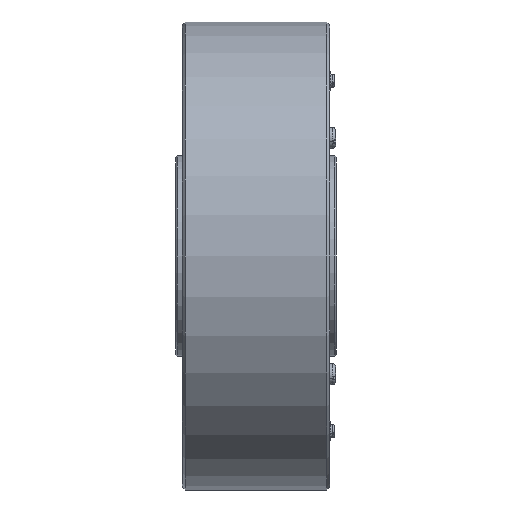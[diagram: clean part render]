
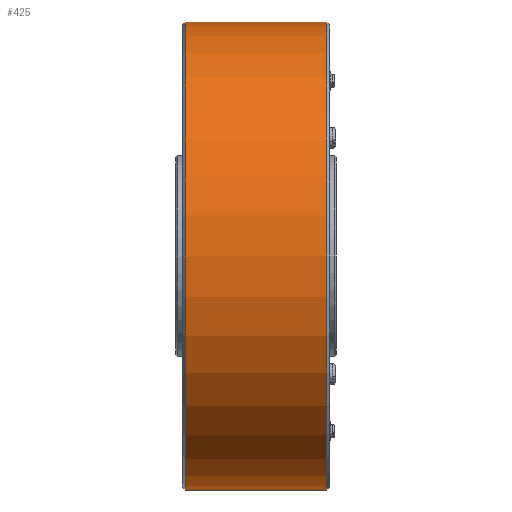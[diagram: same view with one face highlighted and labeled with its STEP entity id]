
A CAD part, front view. The second image highlights one B-rep face of the part: STEP entity #425.
In plain terms, the highlighted cylindrical face has radius 87.5 mm (diameter 175 mm), a partial arc.
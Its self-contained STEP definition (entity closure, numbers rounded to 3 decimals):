
#425 = ADVANCED_FACE ( 'NONE', ( #7435 ), #7448, .T. ) ;
#1810 = ORIENTED_EDGE ( 'NONE', *, *, #3522, .T. ) ;
#1827 = ORIENTED_EDGE ( 'NONE', *, *, #3557, .T. ) ;
#1832 = ORIENTED_EDGE ( 'NONE', *, *, #3511, .T. ) ;
#1843 = ORIENTED_EDGE ( 'NONE', *, *, #3536, .F. ) ;
#2243 = VERTEX_POINT ( 'NONE', #6926 ) ;
#2255 = VERTEX_POINT ( 'NONE', #7009 ) ;
#2269 = VERTEX_POINT ( 'NONE', #7050 ) ;
#2302 = VERTEX_POINT ( 'NONE', #6996 ) ;
#2420 = EDGE_LOOP ( 'NONE', ( #1843, #1827, #1832, #1810 ) ) ;
#3511 = EDGE_CURVE ( 'NONE', #2269, #2255, #8678, .T. ) ;
#3522 = EDGE_CURVE ( 'NONE', #2255, #2243, #9178, .T. ) ;
#3536 = EDGE_CURVE ( 'NONE', #2302, #2243, #8897, .T. ) ;
#3557 = EDGE_CURVE ( 'NONE', #2302, #2269, #9240, .T. ) ;
#4836 = AXIS2_PLACEMENT_3D ( 'NONE', #7464, #7447, #7459 ) ;
#6926 = CARTESIAN_POINT ( 'NONE',  ( 1., 0., -87.5 ) ) ;
#6996 = CARTESIAN_POINT ( 'NONE',  ( 54., 0., -87.5 ) ) ;
#7009 = CARTESIAN_POINT ( 'NONE',  ( 1., 0., 87.5 ) ) ;
#7050 = CARTESIAN_POINT ( 'NONE',  ( 54., 0., 87.5 ) ) ;
#7435 = FACE_OUTER_BOUND ( 'NONE', #2420, .T. ) ;
#7447 = DIRECTION ( 'NONE',  ( -1., 0., 0. ) ) ;
#7448 = CYLINDRICAL_SURFACE ( 'NONE', #4836, 87.5 ) ;
#7459 = DIRECTION ( 'NONE',  ( 0., 0., 1. ) ) ;
#7464 = CARTESIAN_POINT ( 'NONE',  ( -9.112, 0., 0. ) ) ;
#7929 = CARTESIAN_POINT ( 'NONE',  ( 54., 0., 0. ) ) ;
#7932 = DIRECTION ( 'NONE',  ( -1., 0., 0. ) ) ;
#7933 = DIRECTION ( 'NONE',  ( 0., 0., 1. ) ) ;
#8678 = LINE ( 'NONE', #8755, #9189 ) ;
#8720 = DIRECTION ( 'NONE',  ( -1., 0., 0. ) ) ;
#8755 = CARTESIAN_POINT ( 'NONE',  ( -9.112, 0., 87.5 ) ) ;
#8849 = DIRECTION ( 'NONE',  ( 1., 0., 0. ) ) ;
#8850 = CARTESIAN_POINT ( 'NONE',  ( 1., 0., 0. ) ) ;
#8869 = DIRECTION ( 'NONE',  ( 0., 0., -1. ) ) ;
#8885 = DIRECTION ( 'NONE',  ( -1., 0., 0. ) ) ;
#8889 = CARTESIAN_POINT ( 'NONE',  ( -9.112, 0., -87.5 ) ) ;
#8897 = LINE ( 'NONE', #8889, #9183 ) ;
#9151 = AXIS2_PLACEMENT_3D ( 'NONE', #8850, #8849, #8869 ) ;
#9178 = CIRCLE ( 'NONE', #9151, 87.5 ) ;
#9183 = VECTOR ( 'NONE', #8885, 1000. ) ;
#9189 = VECTOR ( 'NONE', #8720, 1000. ) ;
#9203 = AXIS2_PLACEMENT_3D ( 'NONE', #7929, #7932, #7933 ) ;
#9240 = CIRCLE ( 'NONE', #9203, 87.5 ) ;
